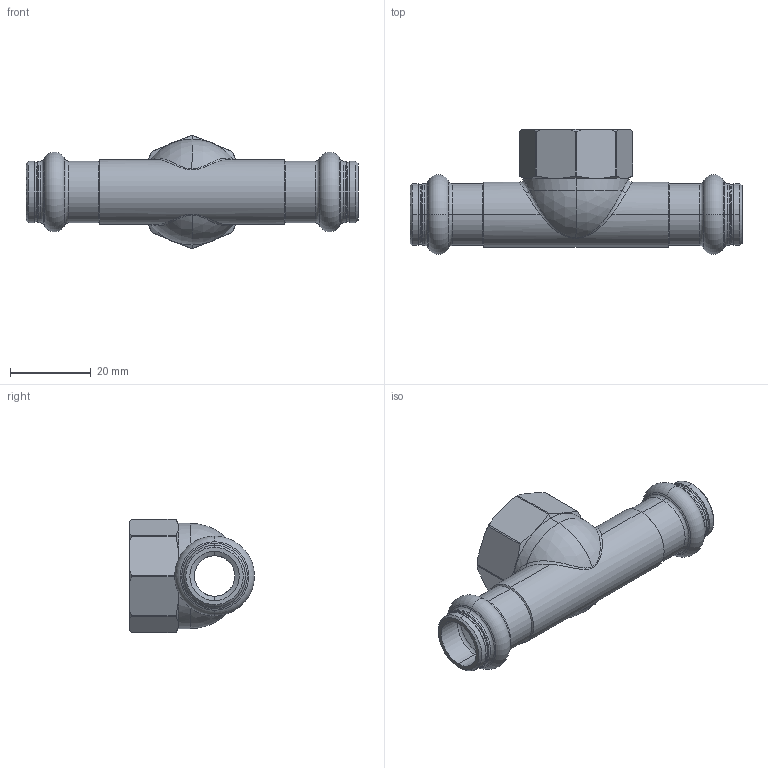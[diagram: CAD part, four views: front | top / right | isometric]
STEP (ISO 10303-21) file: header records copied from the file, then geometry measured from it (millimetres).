
FILE_DESCRIPTION (( 'STEP AP203' ), '1' );
FILE_NAME ('SP4130G Ø12 1-2 12.STEP', '2017-04-28T09:10:05', ( '' ), ( '' ), 'SwSTEP 2.0', 'SolidWorks 2016', '' );
FILE_SCHEMA (( 'CONFIG_CONTROL_DESIGN' ));
Length unit declared in the file: millimetre
Products named in the file (1): SP4130G Ø12 1-2 12
Bounding box: 82 x 30.85 x 28 mm (x, y, z)
Volume: 11898.3 mm3; surface area: 9946.5 mm2
Topology: 1 solids, 1 shells, 152 faces, 357 edges, 204 vertices
Faces by surface type: cone 47, cylinder 46, torus 24, plane 21, sphere 8, bspline 6
Entity records: 5850 total; most frequent: CARTESIAN_POINT 2336, DIRECTION 767, ORIENTED_EDGE 706, EDGE_CURVE 353, AXIS2_PLACEMENT_3D 329, VERTEX_POINT 204, CIRCLE 182, EDGE_LOOP 157
